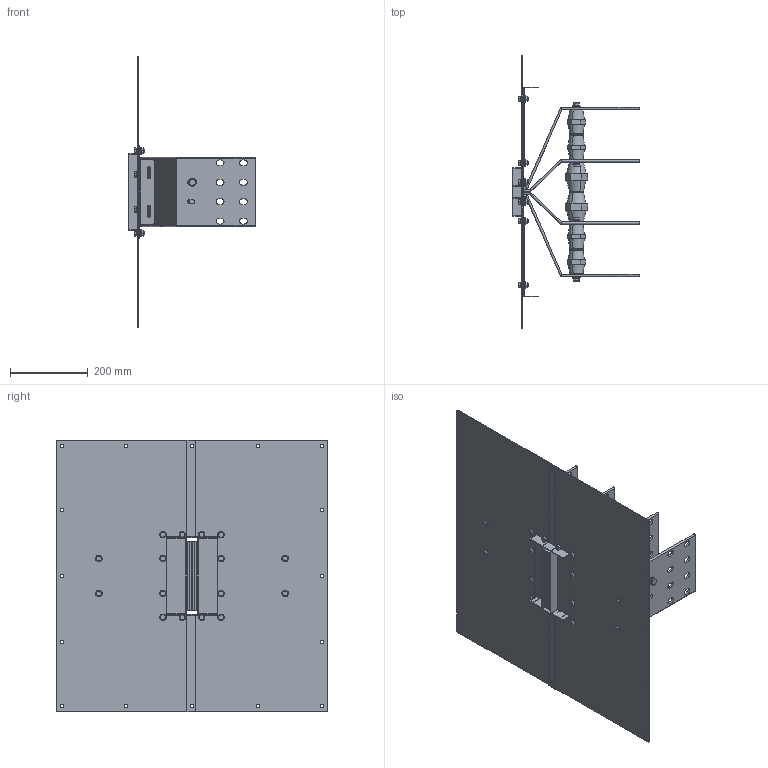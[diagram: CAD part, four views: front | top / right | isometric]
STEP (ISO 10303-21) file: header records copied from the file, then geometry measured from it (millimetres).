
FILE_DESCRIPTION(('CATIA V5 STEP','CAx-IF Rec.Pracs.--- Model Styling and Organization---1.5--- 2016-08-15','CAx-IF Rec.Pracs.---Supplemental Geometry---1.0---2011-11-01','CAx-IF Rec.Pracs.--- Composite Materials ---1.1---2010-07-15'),'2;1');
FILE_NAME('K:\COSCN 2011\32372311_RiduzioneSezioniBarre\03_Studio\__Modelli semplificati\XCP_UB semplificati per studi\XCP-HP_UB_4C_Pe_CRT_Assieme\Al\XCP-HP_UB_4C_Pe_S_Assieme - 1600A Al_CRT\XCP-HP_UB_4C_Pe_S_Assieme - 1600A Al_CRT.stp','2025-05-12T09:36:00+00:00',('Utente Bticino'),('Bticino S.p.A.'),'CATIA Version 5-6 Release 2020 SP5','CATIA V5 STEP AP214 v2','none');
FILE_SCHEMA(('AUTOMOTIVE_DESIGN { 1 0 10303 214 1 1 1 1 }'));
Length unit declared in the file: millimetre
Products named in the file (20): XCP-HP_UB_4C_Pe_S_Assieme - 1600A Al_CRT; XCP-HP_UB_4C_Pe_S_PaccoBarre_1600A Al_CRT; XCP-HP_UB_4C_Pe_S_Lamiere_1600A Al_CRT; Ass_M10x25.1; 00740025 M10x25 UNI5739; Rondella spac M10 UNI 1751; 00750005; 130006; 130184; 130006_1; 130184_1; 130006_2; 130006_3; 00750033 - RONDELLA PIANA 4.8 D.12 UNI 6592 ZB; 00750033 - RONDELLA PIANA 4.8 D.12 UNI 6592 ZB_1; 00750033 - RONDELLA PIANA 4.8 D.12 UNI 6592 ZB_2; Viteria UB H130; Ass Vite+dado M8; Steel hex flanged SCREW M12x16; Steel hex flanged NUT M8
Assembly tree (39 placements, depth 4):
  XCP-HP_UB_4C_Pe_S_Assieme - 1600A Al_CRT
    XCP-HP_UB_4C_Pe_S_PaccoBarre_1600A Al_CRT
    XCP-HP_UB_4C_Pe_S_Lamiere_1600A Al_CRT
    Ass_M10x25.1  x6
      00740025 M10x25 UNI5739
      Rondella spac M10 UNI 1751
      00750005
    130006
    130184
    130006_1
    130184_1
    130006_2
    130006_3
    00750033 - RONDELLA PIANA 4.8 D.12 UNI 6592 ZB
    00750033 - RONDELLA PIANA 4.8 D.12 UNI 6592 ZB_1
    00750033 - RONDELLA PIANA 4.8 D.12 UNI 6592 ZB_2
    Viteria UB H130
      Ass Vite+dado M8  x16
        Steel hex flanged SCREW M12x16
        Steel hex flanged NUT M8
Bounding box: 325 x 700 x 700 mm (x, y, z)
Volume: 3472486.6 mm3; surface area: 2033223.1 mm2
Topology: 73 solids, 73 shells, 1716 faces, 4144 edges, 2612 vertices
Faces by surface type: plane 760, cylinder 516, cone 200, bspline 176, torus 64
Entity records: 25621 total; most frequent: CARTESIAN_POINT 5540, ORIENTED_EDGE 4280, DIRECTION 3370, EDGE_CURVE 2140, AXIS2_PLACEMENT_3D 1460, VERTEX_POINT 1372, VECTOR 1248, LINE 1248
